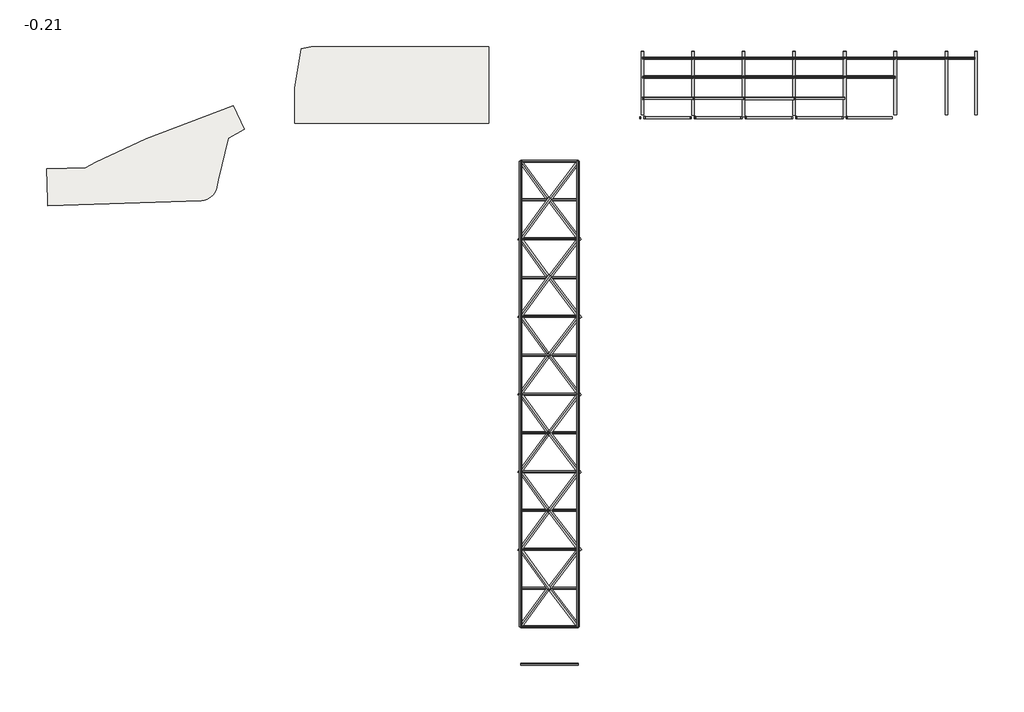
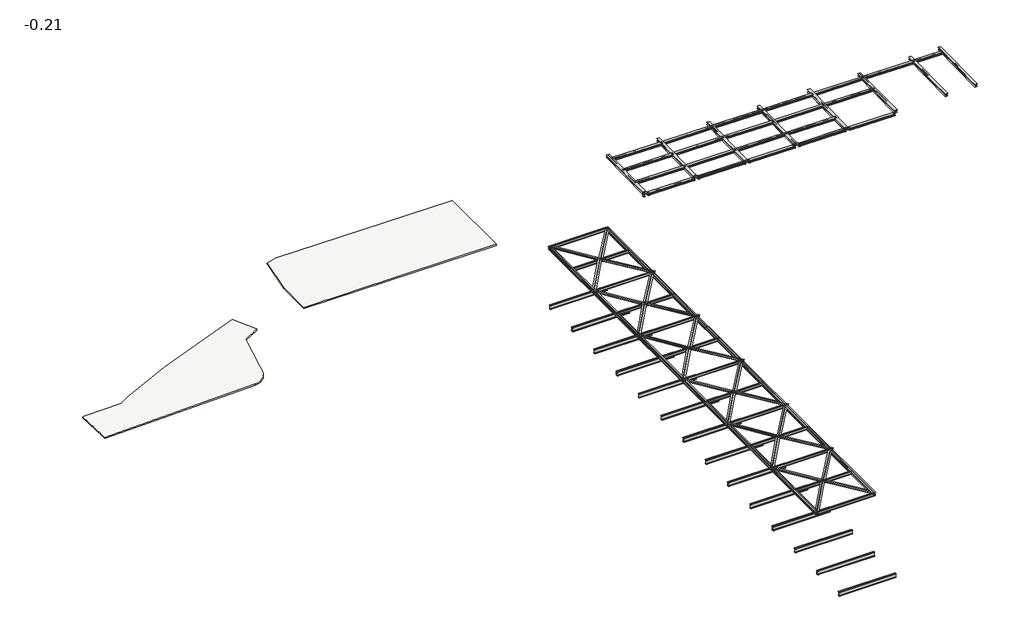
# One storey, incomplete: 96 beams, 2 slabs.
"""IFC4 building model written with IfcOpenShell, lengths in millimetres."""

from ifc_helpers import new_model, si_unit, frame, origin, place, context, project, spatial, circle_curve, faceted_brep, transform, mapped, element, save
from ifc_brep_helpers import plane_surface, cylinder_surface, advanced_brep
from components import beam_a2f6b81b, beam_abf34582, beam_97ae899e, beam_95cc8830, beam_805ead73, beam_87c8cfda, beam_ae258fda, beam_14ef86d2, beam_364cffa0, beam_a9633d2a, beam_024abb98, beam_219da6fe, beam_b7eeabf2, beam_b6fad6b5, beam_b3a487a1, beam_624bc293, beam_f6f99f5c, beam_cdd1c6c5, beam_10ac7902, beam_3a03d44c, beam_2c250x37_3421135d, beam_2c250x37_457c98ef, beam_2c250x37_d0_c14ff850, beam_2c380x74_f030002c, hea220_1345f282, hea220_c0cb1d5e, hea220_8597afc0, hea220_396262f0, hea220_834636a7, hea220_2531376c, hea220_d5b03f22, hea260_55b79d81, hea260_2124dacb, hea260_317cb1e5, hea260_97ac0598, hea260_2b03f381

model = new_model("IFC4")

# Units and contexts
model_context = context("Model", 3, world=origin())
ifc_project = project(units=[si_unit("LENGTHUNIT", "METRE", prefix="MILLI")], contexts=[model_context])

# Site, building, storey
site = spatial("IfcSite", under=ifc_project)
building = spatial("IfcBuilding", under=site)
storey = spatial("IfcBuildingStorey", under=building, Name="-0.21", Elevation=-210.0)

# Beams
placement = place(None, origin())
beam_shape = beam_a2f6b81b(model_context)
element("IfcBeam", 1, ObjectType="Profilati doppi a L : DCED150x12", at=placement, inside=storey, context=model_context, shape_type="MappedRepresentation", body=[
    mapped(beam_shape, transform((6690.4512975, 3246.2985631, 804.5), x_axis=(-0.5877852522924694, 0.8090169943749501, 0.0), y_axis=(-0.8090169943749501, -0.5877852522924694, 0.0), z_axis=(0.0, 0.0, 1.0))),
])
beam_2_shape = beam_abf34582(model_context)
element("IfcBeam", 2, ObjectType="Profilati doppi a L : DCED150x12", at=placement, inside=storey, context=model_context, shape_type="MappedRepresentation", body=[
    mapped(beam_2_shape, transform((9376.6614361, -19046.9609061, 804.5), x_axis=(0.6061344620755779, 0.7953621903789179, 0.0), y_axis=(-0.7953621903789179, 0.6061344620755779, 0.0), z_axis=(0.0, 0.0, 1.0))),
])
element("IfcBeam", 3, ObjectType="Profilati doppi a L : DCED150x12", at=placement, inside=storey, context=model_context, shape_type="MappedRepresentation", body=[
    mapped(beam_2_shape, transform((9376.6614361, 3238.7533796, 804.5), x_axis=(0.6061344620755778, 0.7953621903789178, 0.0), y_axis=(-0.7953621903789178, 0.6061344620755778, 0.0), z_axis=(0.0, 0.0, 1.0))),
])
beam_3_shape = beam_97ae899e(model_context)
element("IfcBeam", 4, ObjectType="Profilati doppi a L : DCED150x12", at=placement, inside=storey, context=model_context, shape_type="MappedRepresentation", body=[
    mapped(beam_3_shape, transform((9396.6242774, -22589.9559065, 804.5), x_axis=(0.6061344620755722, -0.7953621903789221, 0.0), y_axis=(0.7953621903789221, 0.6061344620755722, 0.0), z_axis=(0.0, 0.0, 1.0))),
])
beam_4_shape = beam_95cc8830(model_context)
element("IfcBeam", 5, ObjectType="Profilati doppi a L : DCED150x12", at=placement, inside=storey, context=model_context, shape_type="MappedRepresentation", body=[
    mapped(beam_4_shape, transform((6690.4512975, -11605.6381949, 804.5), x_axis=(-0.5877852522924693, 0.8090169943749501, 0.0), y_axis=(-0.8090169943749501, -0.5877852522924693, 0.0), z_axis=(0.0, 0.0, 1.0))),
])
beam_5_shape = beam_805ead73(model_context)
element("IfcBeam", 6, ObjectType="Profilati doppi a L : DCED150x12", at=placement, inside=storey, context=model_context, shape_type="MappedRepresentation", body=[
    mapped(beam_5_shape, transform((9376.6614361, -11613.1833784, 804.5), x_axis=(0.6061344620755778, 0.7953621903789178, 0.0), y_axis=(-0.7953621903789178, 0.6061344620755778, 0.0), z_axis=(0.0, 0.0, 1.0))),
])
beam_6_shape = beam_87c8cfda(model_context)
element("IfcBeam", 7, ObjectType="Profilati doppi a L : DCED150x12", at=placement, inside=storey, context=model_context, shape_type="MappedRepresentation", body=[
    mapped(beam_6_shape, transform((6690.4512975, -15137.5285673, 804.5), x_axis=(-0.587785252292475, -0.809016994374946, 0.0), y_axis=(0.809016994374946, -0.587785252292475, 0.0), z_axis=(0.0, 0.0, 1.0))),
])
beam_7_shape = beam_ae258fda(model_context)
element("IfcBeam", 8, ObjectType="Profilati doppi a L : DCED150x12", at=placement, inside=storey, context=model_context, shape_type="MappedRepresentation", body=[
    mapped(beam_7_shape, transform((9376.6614361, -15129.9833838, 804.5), x_axis=(0.6061344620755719, -0.7953621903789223, 0.0), y_axis=(0.7953621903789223, 0.6061344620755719, 0.0), z_axis=(0.0, 0.0, 1.0))),
])
element("IfcBeam", 9, ObjectType="Profilati doppi a L : DCED150x12", at=placement, inside=storey, context=model_context, shape_type="MappedRepresentation", body=[
    mapped(beam_7_shape, transform((9376.6614361, 7155.7309019, 804.5), x_axis=(0.6061344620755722, -0.7953621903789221, 0.0), y_axis=(0.7953621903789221, 0.6061344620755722, 0.0), z_axis=(0.0, 0.0, 1.0))),
])
beam_8_shape = beam_14ef86d2(model_context)
element("IfcBeam", 10, ObjectType="Profilati doppi a L : DCED150x12", at=placement, inside=storey, context=model_context, shape_type="MappedRepresentation", body=[
    mapped(beam_8_shape, transform((6690.4512975, -4182.2728655, 804.5), x_axis=(-0.5877852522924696, 0.80901699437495, 0.0), y_axis=(-0.80901699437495, -0.5877852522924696, 0.0), z_axis=(0.0, 0.0, 1.0))),
])
beam_9_shape = beam_364cffa0(model_context)
element("IfcBeam", 11, ObjectType="Profilati doppi a L : DCED150x12", at=placement, inside=storey, context=model_context, shape_type="MappedRepresentation", body=[
    mapped(beam_9_shape, transform((9376.6614361, -4189.8180489, 804.5), x_axis=(0.6061344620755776, 0.795362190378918, 0.0), y_axis=(-0.795362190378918, 0.6061344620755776, 0.0), z_axis=(0.0, 0.0, 1.0))),
])
element("IfcBeam", 12, ObjectType="Profilati doppi a L : DCED150x12", at=placement, inside=storey, context=model_context, shape_type="MappedRepresentation", body=[
    mapped(beam_9_shape, transform((9376.6614361, 10672.5309073, 804.5), x_axis=(0.6061344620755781, 0.7953621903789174, 0.0), y_axis=(-0.7953621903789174, 0.6061344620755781, 0.0), z_axis=(0.0, 0.0, 1.0))),
])
beam_10_shape = beam_a9633d2a(model_context)
element("IfcBeam", 13, ObjectType="Profilati doppi a L : DCED150x12", at=placement, inside=storey, context=model_context, shape_type="MappedRepresentation", body=[
    mapped(beam_10_shape, transform((6690.4512975, -7714.1632379, 804.5), x_axis=(-0.5877852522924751, -0.8090169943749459, 0.0), y_axis=(0.8090169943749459, -0.5877852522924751, 0.0), z_axis=(0.0, 0.0, 1.0))),
])
beam_11_shape = beam_024abb98(model_context)
element("IfcBeam", 14, ObjectType="Profilati doppi a L : DCED150x12", at=placement, inside=storey, context=model_context, shape_type="MappedRepresentation", body=[
    mapped(beam_11_shape, transform((9376.6614361, -7706.6180544, 804.5), x_axis=(0.6061344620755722, -0.7953621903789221, 0.0), y_axis=(0.7953621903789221, 0.6061344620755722, 0.0), z_axis=(0.0, 0.0, 1.0))),
])
beam_12_shape = beam_219da6fe(model_context)
element("IfcBeam", 15, ObjectType="Profilati doppi a L : DCED150x12", at=placement, inside=storey, context=model_context, shape_type="MappedRepresentation", body=[
    mapped(beam_12_shape, transform((6690.4512975, -285.5918093, 804.5), x_axis=(-0.587785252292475, -0.809016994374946, 0.0), y_axis=(0.809016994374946, -0.587785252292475, 0.0), z_axis=(0.0, 0.0, 1.0))),
])
beam_13_shape = beam_b7eeabf2(model_context)
element("IfcBeam", 16, ObjectType="Profilati doppi a L : DCED150x12", at=placement, inside=storey, context=model_context, shape_type="MappedRepresentation", body=[
    mapped(beam_13_shape, transform((9376.6614361, -278.0466258, 804.5), x_axis=(0.606134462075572, -0.7953621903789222, 0.0), y_axis=(0.7953621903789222, 0.606134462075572, 0.0), z_axis=(0.0, 0.0, 1.0))),
])
element("IfcBeam", 17, ObjectType="Profilati doppi a L : DCED150x12", at=placement, inside=storey, context=model_context, shape_type="MappedRepresentation", body=[
    mapped(beam_13_shape, transform((9376.6614361, 14584.3023305, 804.5), x_axis=(0.6061344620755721, -0.7953621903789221, 0.0), y_axis=(0.7953621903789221, 0.6061344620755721, 0.0), z_axis=(0.0, 0.0, 1.0))),
])
beam_14_shape = beam_b6fad6b5(model_context)
element("IfcBeam", 18, ObjectType="Profilati doppi a L : DCED150x12", at=placement, inside=storey, context=model_context, shape_type="MappedRepresentation", body=[
    mapped(beam_14_shape, transform((9376.6614361, 18101.1023359, 804.5), x_axis=(0.6061344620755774, 0.7953621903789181, 0.0), y_axis=(-0.7953621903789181, 0.6061344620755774, 0.0), z_axis=(0.0, 0.0, 1.0))),
])
beam_15_shape = beam_b3a487a1(model_context)
element("IfcBeam", 19, ObjectType="Profilati doppi a L : DCED150x12", at=placement, inside=storey, context=model_context, shape_type="MappedRepresentation", body=[
    mapped(beam_15_shape, transform((6690.4512975, 10680.0760908, 804.5), x_axis=(-0.5877852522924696, 0.8090169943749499, 0.0), y_axis=(-0.8090169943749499, -0.5877852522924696, 0.0), z_axis=(0.0, 0.0, 1.0))),
])
beam_16_shape = beam_624bc293(model_context)
element("IfcBeam", 20, ObjectType="Profilati doppi a L : DCED150x12", at=placement, inside=storey, context=model_context, shape_type="MappedRepresentation", body=[
    mapped(beam_16_shape, transform((6690.4512975, 7148.1857184, 804.5), x_axis=(-0.5877852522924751, -0.8090169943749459, 0.0), y_axis=(0.8090169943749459, -0.5877852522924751, 0.0), z_axis=(0.0, 0.0, 1.0))),
])
beam_17_shape = beam_f6f99f5c(model_context)
element("IfcBeam", 21, ObjectType="Profilati doppi a L : DCED150x12", at=placement, inside=storey, context=model_context, shape_type="MappedRepresentation", body=[
    mapped(beam_17_shape, transform((6690.4512975, 18108.6475194, 804.5), x_axis=(-0.5877852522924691, 0.8090169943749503, 0.0), y_axis=(-0.8090169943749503, -0.5877852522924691, 0.0), z_axis=(0.0, 0.0, 1.0))),
])
beam_18_shape = beam_cdd1c6c5(model_context)
element("IfcBeam", 22, ObjectType="Profilati doppi a L : DCED150x12", at=placement, inside=storey, context=model_context, shape_type="MappedRepresentation", body=[
    mapped(beam_18_shape, transform((6690.4512975, 14576.757147, 804.5), x_axis=(-0.587785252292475, -0.809016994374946, 0.0), y_axis=(0.809016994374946, -0.587785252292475, 0.0), z_axis=(0.0, 0.0, 1.0))),
])
beam_19_shape = beam_10ac7902(model_context)
element("IfcBeam", 23, ObjectType="Profilati doppi a L : DCED150x12", at=placement, inside=storey, context=model_context, shape_type="MappedRepresentation", body=[
    mapped(beam_19_shape, transform((6690.4512975, -22571.306095, 804.5), x_axis=(-0.587785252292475, -0.8090169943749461, 0.0), y_axis=(0.8090169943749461, -0.587785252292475, 0.0), z_axis=(0.0, 0.0, 1.0))),
])
beam_20_shape = beam_3a03d44c(model_context)
element("IfcBeam", 24, ObjectType="Profilati doppi a L : DCED150x12", at=placement, inside=storey, context=model_context, shape_type="MappedRepresentation", body=[
    mapped(beam_20_shape, transform((6690.4512975, -19039.4157226, 804.5), x_axis=(-0.5877852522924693, 0.8090169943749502, 0.0), y_axis=(-0.8090169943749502, -0.5877852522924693, 0.0), z_axis=(0.0, 0.0, 1.0))),
])
beam_2c250x37_shape = beam_2c250x37_3421135d(model_context)
element("IfcBeam", 25, ObjectType="Profilato a doppia C : 2C250X37", at=placement, inside=storey, context=model_context, shape_type="MappedRepresentation", body=[
    mapped(beam_2c250x37_shape, transform((5292.3573777, 8908.7187063, 726.8835145), x_axis=(0.0, -1.0, 0.0), y_axis=(1.0, 0.0, 0.0), z_axis=(0.0, 0.0, 1.0))),
])
element("IfcBeam", 26, ObjectType="Profilato a doppia C : 2C250X37", at=placement, inside=storey, context=model_context, shape_type="MappedRepresentation", body=[
    mapped(beam_2c250x37_shape, transform((10792.3573777, 8908.7187063, 726.8835145), x_axis=(0.0, -1.0, 0.0), y_axis=(1.0, 0.0, 0.0), z_axis=(0.0, 0.0, 1.0))),
])
beam_2c250x37_2_shape = beam_2c250x37_457c98ef(model_context)
element("IfcBeam", 27, ObjectType="Profilato a doppia C : 2C250X37", at=placement, inside=storey, context=model_context, shape_type="MappedRepresentation", body=[
    mapped(beam_2c250x37_2_shape, transform((5292.3573777, -13376.9955794, 726.8835145), x_axis=(0.0, -1.0, 0.0), y_axis=(1.0, 0.0, 0.0), z_axis=(0.0, 0.0, 1.0))),
])
element("IfcBeam", 28, ObjectType="Profilato a doppia C : 2C250X37", at=placement, inside=storey, context=model_context, shape_type="MappedRepresentation", body=[
    mapped(beam_2c250x37_2_shape, transform((10792.3573777, -13376.9955794, 726.8835145), x_axis=(0.0, -1.0, 0.0), y_axis=(1.0, 0.0, 0.0), z_axis=(0.0, 0.0, 1.0))),
])
beam_2c250x37_d0_shape = beam_2c250x37_d0_c14ff850(model_context)
element("IfcBeam", 29, ObjectType="Profilato a doppia C : 2C250X37 d0", at=placement, inside=storey, context=model_context, shape_type="MappedRepresentation", body=[
    mapped(beam_2c250x37_d0_shape, transform((8042.3573777, 16332.2901349, 719.0), x_axis=(1.0, 0.0, 0.0), y_axis=(0.0, 1.0, 0.0), z_axis=(0.0, 0.0, 1.0))),
])
element("IfcBeam", 30, ObjectType="Profilato a doppia C : 2C250X37 d0", at=placement, inside=storey, context=model_context, shape_type="MappedRepresentation", body=[
    mapped(beam_2c250x37_d0_shape, transform((8042.3573777, 12618.0044206, 719.0), x_axis=(1.0, 0.0, 0.0), y_axis=(0.0, 1.0, 0.0), z_axis=(0.0, 0.0, 1.0))),
])
element("IfcBeam", 31, ObjectType="Profilato a doppia C : 2C250X37 d0", at=placement, inside=storey, context=model_context, shape_type="MappedRepresentation", body=[
    mapped(beam_2c250x37_d0_shape, transform((8042.3573777, 8903.7187063, 719.0), x_axis=(1.0, 0.0, 0.0), y_axis=(0.0, 1.0, 0.0), z_axis=(0.0, 0.0, 1.0))),
])
element("IfcBeam", 32, ObjectType="Profilato a doppia C : 2C250X37 d0", at=placement, inside=storey, context=model_context, shape_type="MappedRepresentation", body=[
    mapped(beam_2c250x37_d0_shape, transform((8042.3573777, 5189.432992, 719.0), x_axis=(1.0, 0.0, 0.0), y_axis=(0.0, 1.0, 0.0), z_axis=(0.0, 0.0, 1.0))),
])
element("IfcBeam", 33, ObjectType="Profilato a doppia C : 2C250X37 d0", at=placement, inside=storey, context=model_context, shape_type="MappedRepresentation", body=[
    mapped(beam_2c250x37_d0_shape, transform((8042.3573777, 1475.1472778, 719.0), x_axis=(1.0, 0.0, 0.0), y_axis=(0.0, 1.0, 0.0), z_axis=(0.0, 0.0, 1.0))),
])
element("IfcBeam", 34, ObjectType="Profilato a doppia C : 2C250X37 d0", at=placement, inside=storey, context=model_context, shape_type="MappedRepresentation", body=[
    mapped(beam_2c250x37_d0_shape, transform((8042.3573777, -2239.1384365, 719.0), x_axis=(1.0, 0.0, 0.0), y_axis=(0.0, 1.0, 0.0), z_axis=(0.0, 0.0, 1.0))),
])
element("IfcBeam", 35, ObjectType="Profilato a doppia C : 2C250X37 d0", at=placement, inside=storey, context=model_context, shape_type="MappedRepresentation", body=[
    mapped(beam_2c250x37_d0_shape, transform((8042.3573777, -5953.4241508, 719.0), x_axis=(1.0, 0.0, 0.0), y_axis=(0.0, 1.0, 0.0), z_axis=(0.0, 0.0, 1.0))),
])
element("IfcBeam", 36, ObjectType="Profilato a doppia C : 2C250X37 d0", at=placement, inside=storey, context=model_context, shape_type="MappedRepresentation", body=[
    mapped(beam_2c250x37_d0_shape, transform((8042.3573777, -9667.7098651, 719.0), x_axis=(1.0, 0.0, 0.0), y_axis=(0.0, 1.0, 0.0), z_axis=(0.0, 0.0, 1.0))),
])
element("IfcBeam", 37, ObjectType="Profilato a doppia C : 2C250X37 d0", at=placement, inside=storey, context=model_context, shape_type="MappedRepresentation", body=[
    mapped(beam_2c250x37_d0_shape, transform((8042.3573777, -13381.9955794, 719.0), x_axis=(1.0, 0.0, 0.0), y_axis=(0.0, 1.0, 0.0), z_axis=(0.0, 0.0, 1.0))),
])
element("IfcBeam", 38, ObjectType="Profilato a doppia C : 2C250X37 d0", at=placement, inside=storey, context=model_context, shape_type="MappedRepresentation", body=[
    mapped(beam_2c250x37_d0_shape, transform((8042.3573777, -17096.2812937, 719.0), x_axis=(1.0, 0.0, 0.0), y_axis=(0.0, 1.0, 0.0), z_axis=(0.0, 0.0, 1.0))),
])
element("IfcBeam", 39, ObjectType="Profilato a doppia C : 2C250X37 d0", at=placement, inside=storey, context=model_context, shape_type="MappedRepresentation", body=[
    mapped(beam_2c250x37_d0_shape, transform((8042.3573777, -20810.567008, 719.0), x_axis=(1.0, 0.0, 0.0), y_axis=(0.0, 1.0, 0.0), z_axis=(0.0, 0.0, 1.0))),
])
element("IfcBeam", 40, ObjectType="Profilato a doppia C : 2C250X37 d0", at=placement, inside=storey, context=model_context, shape_type="MappedRepresentation", body=[
    mapped(beam_2c250x37_d0_shape, transform((8042.3573777, -24524.8527222, 719.0), x_axis=(1.0, 0.0, 0.0), y_axis=(0.0, 1.0, 0.0), z_axis=(0.0, 0.0, 1.0))),
])
element("IfcBeam", 41, ObjectType="Profilato a doppia C : 2C250X37 d0", at=placement, inside=storey, context=model_context, shape_type="MappedRepresentation", body=[
    mapped(beam_2c250x37_d0_shape, transform((8042.3573777, 20046.5758492, 719.0), x_axis=(1.0, 0.0, 0.0), y_axis=(0.0, 1.0, 0.0), z_axis=(0.0, 0.0, 1.0))),
])
beam_2c380x74_shape = beam_2c380x74_f030002c(model_context)
element("IfcBeam", 42, ObjectType="Profilato a doppia C : 2C380X74", at=placement, inside=storey, context=model_context, shape_type="MappedRepresentation", body=[
    mapped(beam_2c380x74_shape, transform((8042.3573777, 8908.9248055, -5343.6995524), x_axis=(1.0, 0.0, 0.0), y_axis=(0.0, 1.0, 0.0), z_axis=(0.0, 0.0, 1.0))),
])
element("IfcBeam", 43, ObjectType="Profilato a doppia C : 2C380X74", at=placement, inside=storey, context=model_context, shape_type="MappedRepresentation", body=[
    mapped(beam_2c380x74_shape, transform((8042.3573777, 5194.6390912, -5343.6995524), x_axis=(1.0, 0.0, 0.0), y_axis=(0.0, 1.0, 0.0), z_axis=(0.0, 0.0, 1.0))),
])
element("IfcBeam", 44, ObjectType="Profilato a doppia C : 2C380X74", at=placement, inside=storey, context=model_context, shape_type="MappedRepresentation", body=[
    mapped(beam_2c380x74_shape, transform((8042.3573777, 1480.3533769, -5343.6995524), x_axis=(1.0, 0.0, 0.0), y_axis=(0.0, 1.0, 0.0), z_axis=(0.0, 0.0, 1.0))),
])
element("IfcBeam", 45, ObjectType="Profilato a doppia C : 2C380X74", at=placement, inside=storey, context=model_context, shape_type="MappedRepresentation", body=[
    mapped(beam_2c380x74_shape, transform((8042.3573777, -2233.9323374, -5343.6995524), x_axis=(1.0, 0.0, 0.0), y_axis=(0.0, 1.0, 0.0), z_axis=(0.0, 0.0, 1.0))),
])
element("IfcBeam", 46, ObjectType="Profilato a doppia C : 2C380X74", at=placement, inside=storey, context=model_context, shape_type="MappedRepresentation", body=[
    mapped(beam_2c380x74_shape, transform((8042.3573777, -5948.2180517, -5343.6995524), x_axis=(1.0, 0.0, 0.0), y_axis=(0.0, 1.0, 0.0), z_axis=(0.0, 0.0, 1.0))),
])
element("IfcBeam", 47, ObjectType="Profilato a doppia C : 2C380X74", at=placement, inside=storey, context=model_context, shape_type="MappedRepresentation", body=[
    mapped(beam_2c380x74_shape, transform((8042.3573777, -9662.503766, -5343.6995524), x_axis=(1.0, 0.0, 0.0), y_axis=(0.0, 1.0, 0.0), z_axis=(0.0, 0.0, 1.0))),
])
element("IfcBeam", 48, ObjectType="Profilato a doppia C : 2C380X74", at=placement, inside=storey, context=model_context, shape_type="MappedRepresentation", body=[
    mapped(beam_2c380x74_shape, transform((8042.3573777, -13376.7894802, -5343.6995524), x_axis=(1.0, 0.0, 0.0), y_axis=(0.0, 1.0, 0.0), z_axis=(0.0, 0.0, 1.0))),
])
element("IfcBeam", 49, ObjectType="Profilato a doppia C : 2C380X74", at=placement, inside=storey, context=model_context, shape_type="MappedRepresentation", body=[
    mapped(beam_2c380x74_shape, transform((8042.3573777, -17091.0751945, -5343.6995524), x_axis=(1.0, 0.0, 0.0), y_axis=(0.0, 1.0, 0.0), z_axis=(0.0, 0.0, 1.0))),
])
element("IfcBeam", 50, ObjectType="Profilato a doppia C : 2C380X74", at=placement, inside=storey, context=model_context, shape_type="MappedRepresentation", body=[
    mapped(beam_2c380x74_shape, transform((8042.3573777, -20805.3609088, -5343.6995524), x_axis=(1.0, 0.0, 0.0), y_axis=(0.0, 1.0, 0.0), z_axis=(0.0, 0.0, 1.0))),
])
element("IfcBeam", 51, ObjectType="Profilato a doppia C : 2C380X74", at=placement, inside=storey, context=model_context, shape_type="MappedRepresentation", body=[
    mapped(beam_2c380x74_shape, transform((8042.3573777, -24519.6466231, -5343.6995524), x_axis=(1.0, 0.0, 0.0), y_axis=(0.0, 1.0, 0.0), z_axis=(0.0, 0.0, 1.0))),
])
element("IfcBeam", 52, ObjectType="Profilato a doppia C : 2C380X74", at=placement, inside=storey, context=model_context, shape_type="MappedRepresentation", body=[
    mapped(beam_2c380x74_shape, transform((8042.3573777, -28109.6466231, -5343.6995524), x_axis=(1.0, 0.0, 0.0), y_axis=(0.0, 1.0, 0.0), z_axis=(0.0, 0.0, 1.0))),
])
element("IfcBeam", 53, ObjectType="Profilato a doppia C : 2C380X74", at=placement, inside=storey, context=model_context, shape_type="MappedRepresentation", body=[
    mapped(beam_2c380x74_shape, transform((8042.3573777, 12623.2105198, -5343.6995524), x_axis=(1.0, 0.0, 0.0), y_axis=(0.0, 1.0, 0.0), z_axis=(0.0, 0.0, 1.0))),
])
element("IfcBeam", 54, ObjectType="Profilato a doppia C : 2C380X74", at=placement, inside=storey, context=model_context, shape_type="MappedRepresentation", body=[
    mapped(beam_2c380x74_shape, transform((8042.3573777, 16337.496234, -5343.6995524), x_axis=(1.0, 0.0, 0.0), y_axis=(0.0, 1.0, 0.0), z_axis=(0.0, 0.0, 1.0))),
])
element("IfcBeam", 55, ObjectType="Profilato a doppia C : 2C380X74", at=placement, inside=storey, context=model_context, shape_type="MappedRepresentation", body=[
    mapped(beam_2c380x74_shape, transform((8042.3573777, 20051.7819483, -5343.6995524), x_axis=(1.0, 0.0, 0.0), y_axis=(0.0, 1.0, 0.0), z_axis=(0.0, 0.0, 1.0))),
])
hea220_shape = hea220_1345f282(model_context)
element("IfcBeam", 56, ObjectType="HE-A : HEA220", at=placement, inside=storey, context=model_context, shape_type="MappedRepresentation", body=[
    mapped(hea220_shape, transform((24207.918882, 26067.3367022, -479.4530508), x_axis=(0.9999740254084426, 0.0009623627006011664, -0.007142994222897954), y_axis=(-0.0008451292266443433, 0.9998651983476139, 0.016397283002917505), z_axis=(0.007157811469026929, -0.016390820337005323, 0.9998400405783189))),
])
element("IfcBeam", 57, ObjectType="HE-A : HEA220", at=placement, inside=storey, context=model_context, shape_type="MappedRepresentation", body=[
    mapped(hea220_shape, transform((24207.9182634, 28093.9283457, -446.2368982), x_axis=(0.9999744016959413, 8.242989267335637e-05, -0.007154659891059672), y_axis=(3.398128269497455e-05, 0.9998676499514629, 0.016269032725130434), z_axis=(0.007155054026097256, -0.016268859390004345, 0.9998420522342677))),
])
element("IfcBeam", 58, ObjectType="HE-A : HEA220", at=placement, inside=storey, context=model_context, shape_type="MappedRepresentation", body=[
    mapped(hea220_shape, transform((29048.1027752, 26064.5269667, -514.2253133), x_axis=(-0.9999741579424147, -6.569127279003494e-05, 0.007188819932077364), y_axis=(-5.21498794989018e-05, -0.9998656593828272, -0.016390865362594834), z_axis=(0.007188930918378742, -0.016390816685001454, 0.9998398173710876))),
])
element("IfcBeam", 59, ObjectType="HE-A : HEA220", at=placement, inside=storey, context=model_context, shape_type="MappedRepresentation", body=[
    mapped(hea220_shape, transform((29047.9148329, 28094.2811818, -480.9459957), x_axis=(-0.999974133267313, 6.105575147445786e-05, 0.007192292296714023), y_axis=(-0.00017849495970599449, -0.9998666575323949, -0.016328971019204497), z_axis=(0.0071903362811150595, -0.01632983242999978, 0.9998408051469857))),
])
element("IfcBeam", 60, ObjectType="HE-A : HEA220", at=placement, inside=storey, context=model_context, shape_type="MappedRepresentation", body=[
    mapped(hea220_shape, transform((24207.9180601, 29902.4102875, -416.5829861), x_axis=(0.9999743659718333, -6.468283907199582e-05, -0.007159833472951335), y_axis=(0.00018202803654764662, 0.9998656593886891, 0.016389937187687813), z_axis=(0.007157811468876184, -0.01639082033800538, 0.9998400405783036))),
])
element("IfcBeam", 61, ObjectType="HE-A : HEA220", at=placement, inside=storey, context=model_context, shape_type="MappedRepresentation", body=[
    mapped(hea220_shape, transform((29047.9147841, 29902.4102863, -451.3078417), x_axis=(-0.9999741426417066, 6.46830239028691e-05, 0.007190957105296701), y_axis=(-0.00018253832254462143, -0.9998656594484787, -0.016389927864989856), z_axis=(0.007188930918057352, -0.016390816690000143, 0.9998398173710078))),
])
element("IfcBeam", 62, ObjectType="HE-A : HEA220", at=placement, inside=storey, context=model_context, shape_type="MappedRepresentation", body=[
    mapped(hea220_shape, transform((19367.8150593, 26067.3369571, -443.3888387), x_axis=(0.9999740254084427, 0.0009623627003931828, -0.007142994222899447), y_axis=(-0.0008451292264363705, 0.9998651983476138, 0.016397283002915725), z_axis=(0.007157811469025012, -0.016390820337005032, 0.9998400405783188))),
])
element("IfcBeam", 63, ObjectType="HE-A : HEA220", at=placement, inside=storey, context=model_context, shape_type="MappedRepresentation", body=[
    mapped(hea220_shape, transform((19367.8144406, 28093.9286006, -410.1726861), x_axis=(0.9999744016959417, 8.242989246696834e-05, -0.0071546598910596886), y_axis=(3.3981282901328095e-05, 0.9998676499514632, 0.01626903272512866), z_axis=(0.0071550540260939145, -0.016268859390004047, 0.9998420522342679))),
])
element("IfcBeam", 64, ObjectType="HE-A : HEA220", at=placement, inside=storey, context=model_context, shape_type="MappedRepresentation", body=[
    mapped(hea220_shape, transform((19367.8142373, 29902.4105425, -380.518774), x_axis=(0.9999743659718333, -6.46828388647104e-05, -0.007159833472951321), y_axis=(0.00018202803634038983, 0.999865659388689, 0.016389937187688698), z_axis=(0.007157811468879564, -0.016390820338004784, 0.9998400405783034))),
])
element("IfcBeam", 65, ObjectType="HE-A : HEA220", at=placement, inside=storey, context=model_context, shape_type="MappedRepresentation", body=[
    mapped(hea220_shape, transform((43568.6703544, 29902.4100312, -559.5217831), x_axis=(-0.9999741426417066, 6.468302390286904e-05, 0.007190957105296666), y_axis=(-0.0001825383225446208, -0.9998656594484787, -0.016389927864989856), z_axis=(0.007188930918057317, -0.016390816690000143, 0.9998398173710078))),
])
element("IfcBeam", 66, ObjectType="HE-A : HEA220", at=placement, inside=storey, context=model_context, shape_type="MappedRepresentation", body=[
    mapped(hea220_shape, transform((33888.161472, 29902.4102875, -488.710469), x_axis=(0.9999743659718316, -6.468283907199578e-05, -0.007159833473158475), y_axis=(0.0001820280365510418, 0.9998656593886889, 0.016389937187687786), z_axis=(0.0071578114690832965, -0.01639082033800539, 0.999840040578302))),
])
element("IfcBeam", 67, ObjectType="HE-A : HEA220", at=placement, inside=storey, context=model_context, shape_type="MappedRepresentation", body=[
    mapped(hea220_shape, transform((38728.158196, 29902.4102863, -523.4353245), x_axis=(-0.999974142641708, 6.468302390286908e-05, 0.0071909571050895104), y_axis=(-0.00018253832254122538, -0.9998656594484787, -0.01638992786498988), z_axis=(0.0071889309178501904, -0.016390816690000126, 0.9998398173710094))),
])
element("IfcBeam", 68, ObjectType="HE-A : HEA220", at=placement, inside=storey, context=model_context, shape_type="MappedRepresentation", body=[
    mapped(hea220_shape, transform((33888.162294, 26067.3367022, -551.5805336), x_axis=(0.9999740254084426, 0.0009623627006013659, -0.007142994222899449), y_axis=(-0.0008451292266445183, 0.9998651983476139, 0.016397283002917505), z_axis=(0.007157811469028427, -0.016390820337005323, 0.9998400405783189))),
])
element("IfcBeam", 69, ObjectType="HE-A : HEA220", at=placement, inside=storey, context=model_context, shape_type="MappedRepresentation", body=[
    mapped(hea220_shape, transform((33888.1616753, 28093.9283457, -518.3643811), x_axis=(0.9999744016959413, 8.242989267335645e-05, -0.007154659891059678), y_axis=(3.3981282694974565e-05, 0.9998676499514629, 0.016269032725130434), z_axis=(0.0071550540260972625, -0.016268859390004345, 0.9998420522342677))),
])
element("IfcBeam", 70, ObjectType="HE-A : HEA220", at=placement, inside=storey, context=model_context, shape_type="MappedRepresentation", body=[
    mapped(hea220_shape, transform((38728.1582448, 28094.2811818, -553.0734786), x_axis=(-0.999974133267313, 6.105575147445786e-05, 0.007192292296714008), y_axis=(-0.00017849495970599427, -0.9998666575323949, -0.016328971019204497), z_axis=(0.007190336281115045, -0.01632983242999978, 0.9998408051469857))),
])
hea220_2_shape = hea220_c0cb1d5e(model_context)
element("IfcBeam", 71, ObjectType="HE-A : HEA220", at=placement, inside=storey, context=model_context, shape_type="MappedRepresentation", body=[
    mapped(hea220_2_shape, transform((19356.3568105, 24216.7271056, -469.0688607), x_axis=(0.9999726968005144, -7.694384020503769e-05, -0.007389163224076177), y_axis=(7.694170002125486e-05, 0.9999999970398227, -5.739094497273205e-07), z_axis=(0.007389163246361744, 5.358999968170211e-09, 0.9999726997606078))),
])
element("IfcBeam", 72, ObjectType="HE-A : HEA220", at=placement, inside=storey, context=model_context, shape_type="MappedRepresentation", body=[
    mapped(hea220_2_shape, transform((24196.3861195, 24216.7268507, -505.1348179), x_axis=(0.9999726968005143, -7.694384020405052e-05, -0.007389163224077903), y_axis=(7.694170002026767e-05, 0.9999999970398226, -5.739094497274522e-07), z_axis=(0.007389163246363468, 5.358999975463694e-09, 0.9999726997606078))),
])
element("IfcBeam", 73, ObjectType="HE-A : HEA220", at=placement, inside=storey, context=model_context, shape_type="MappedRepresentation", body=[
    mapped(hea220_2_shape, transform((29036.4899421, 24216.7265957, -541.2054086), x_axis=(0.9999726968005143, -7.694384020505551e-05, -0.007389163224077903), y_axis=(7.694170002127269e-05, 0.9999999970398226, -5.739094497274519e-07), z_axis=(0.007389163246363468, 5.358999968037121e-09, 0.9999726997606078))),
])
element("IfcBeam", 74, ObjectType="HE-A : HEA220", at=placement, inside=storey, context=model_context, shape_type="MappedRepresentation", body=[
    mapped(hea220_2_shape, transform((33876.2211964, 24216.7263408, -577.2617548), x_axis=(0.9999726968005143, -7.694384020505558e-05, -0.007389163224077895), y_axis=(7.694170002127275e-05, 0.9999999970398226, -5.739094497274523e-07), z_axis=(0.00738916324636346, 5.35899996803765e-09, 0.9999726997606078))),
])
element("IfcBeam", 75, ObjectType="HE-A : HEA220", at=placement, inside=storey, context=model_context, shape_type="MappedRepresentation", body=[
    mapped(hea220_2_shape, transform((38715.95245, 24216.7260859, -613.3179519), x_axis=(0.9999726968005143, -7.694384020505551e-05, -0.007389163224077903), y_axis=(7.694170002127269e-05, 0.9999999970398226, -5.739094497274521e-07), z_axis=(0.007389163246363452, 5.358999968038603e-09, 0.9999726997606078))),
])
element("IfcBeam", 76, ObjectType="HE-A : HEA220", at=placement, inside=storey, context=model_context, shape_type="MappedRepresentation", body=[
    mapped(hea220_2_shape, transform((19356.3568105, 24216.7271056, -469.0670829), x_axis=(0.9999726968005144, -7.694383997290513e-05, -0.00738916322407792), y_axis=(7.694169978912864e-05, 0.9999999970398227, -5.739094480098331e-07), z_axis=(0.007389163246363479, 5.358999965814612e-09, 0.9999726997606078))),
])
hea220_3_shape = hea220_8597afc0(model_context)
element("IfcBeam", 77, ObjectType="HE-A : HEA220", at=placement, inside=storey, context=model_context, shape_type="MappedRepresentation", body=[
    mapped(hea220_3_shape, transform((16736.4170953, 24216.5560491, -449.2305106), x_axis=(0.9999826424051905, -7.476964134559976e-05, -0.005891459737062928), y_axis=(7.476822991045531e-05, 0.9999999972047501, -4.5982199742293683e-07), z_axis=(0.0058914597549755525, 1.931999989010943e-08, 0.999982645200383))),
])
element("IfcBeam", 78, ObjectType="HE-A : HEA220", at=placement, inside=storey, context=model_context, shape_type="MappedRepresentation", body=[
    mapped(hea220_3_shape, transform((21576.4464043, 24216.5557941, -485.2964678), x_axis=(0.9999826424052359, -7.476964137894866e-05, -0.005891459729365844), y_axis=(7.4768229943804e-05, 0.9999999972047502, -4.59821997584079e-07), z_axis=(0.005891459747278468, 1.9320000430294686e-08, 0.9999826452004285))),
])
element("IfcBeam", 79, ObjectType="HE-A : HEA220", at=placement, inside=storey, context=model_context, shape_type="MappedRepresentation", body=[
    mapped(hea220_3_shape, transform((26416.550227, 24216.5555391, -521.3688362), x_axis=(0.9999826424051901, -7.476964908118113e-05, -0.0058914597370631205), y_axis=(7.476823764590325e-05, 0.9999999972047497, -4.5982204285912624e-07), z_axis=(0.0058914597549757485, 1.9319999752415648e-08, 0.9999826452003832))),
])
element("IfcBeam", 80, ObjectType="HE-A : HEA220", at=placement, inside=storey, context=model_context, shape_type="MappedRepresentation", body=[
    mapped(hea220_3_shape, transform((31256.2814812, 24216.5552842, -557.4251824), x_axis=(0.9999826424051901, -7.47696490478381e-05, -0.0058914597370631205), y_axis=(7.476823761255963e-05, 0.9999999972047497, -4.5982204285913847e-07), z_axis=(0.0058914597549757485, 1.931999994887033e-08, 0.9999826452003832))),
])
element("IfcBeam", 81, ObjectType="HE-A : HEA220", at=placement, inside=storey, context=model_context, shape_type="MappedRepresentation", body=[
    mapped(hea220_3_shape, transform((36096.0127349, 24216.5550293, -593.4813796), x_axis=(0.9999826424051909, -7.476964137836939e-05, -0.005891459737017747), y_axis=(7.476822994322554e-05, 0.9999999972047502, -4.5982199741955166e-07), z_axis=(0.005891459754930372, 1.931999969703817e-08, 0.9999826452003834))),
])
hea220_4_shape = hea220_396262f0(model_context)
element("IfcBeam", 82, ObjectType="HE-A : HEA220", at=placement, inside=storey, context=model_context, shape_type="MappedRepresentation", body=[
    mapped(hea220_4_shape, transform((21991.3821815, 24216.9057604, -488.8251261), x_axis=(0.9999815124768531, -7.694383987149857e-05, -0.006080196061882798), y_axis=(7.694238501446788e-05, 0.9999999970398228, -4.7319253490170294e-07), z_axis=(0.006080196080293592, 5.359000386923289e-09, 0.9999815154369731))),
])
element("IfcBeam", 83, ObjectType="HE-A : HEA220", at=placement, inside=storey, context=model_context, shape_type="MappedRepresentation", body=[
    mapped(hea220_4_shape, transform((26831.4860041, 24216.9055054, -524.8974945), x_axis=(0.9999815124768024, -7.69438398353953e-05, -0.006080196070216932), y_axis=(7.694238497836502e-05, 0.999999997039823, -4.731925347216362e-07), z_axis=(0.006080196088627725, 5.358999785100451e-09, 0.9999815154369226))),
])
element("IfcBeam", 84, ObjectType="HE-A : HEA220", at=placement, inside=storey, context=model_context, shape_type="MappedRepresentation", body=[
    mapped(hea220_4_shape, transform((31671.2172583, 24216.9052505, -560.9538407), x_axis=(0.9999815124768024, -7.694383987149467e-05, -0.006080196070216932), y_axis=(7.694238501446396e-05, 0.999999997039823, -4.731925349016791e-07), z_axis=(0.006080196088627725, 5.3589997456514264e-09, 0.9999815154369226))),
])
element("IfcBeam", 85, ObjectType="HE-A : HEA220", at=placement, inside=storey, context=model_context, shape_type="MappedRepresentation", body=[
    mapped(hea220_4_shape, transform((36510.948512, 24216.9049957, -597.0100379), x_axis=(0.9999815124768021, -7.694383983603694e-05, -0.006080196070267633), y_axis=(7.694238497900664e-05, 0.999999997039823, -4.731925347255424e-07), z_axis=(0.006080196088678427, 5.358999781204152e-09, 0.9999815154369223))),
])
hea220_5_shape = hea220_834636a7(model_context)
element("IfcBeam", 86, ObjectType="HE-A : HEA220", at=placement, inside=storey, context=model_context, shape_type="MappedRepresentation", body=[
    mapped(hea220_5_shape, transform((47402.4693417, 29902.035387, -588.3729094), x_axis=(-0.9999741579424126, -6.569127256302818e-05, 0.007188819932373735), y_axis=(-5.214987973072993e-05, -0.9998656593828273, -0.01639086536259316), z_axis=(0.007188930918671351, -0.01639081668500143, 0.9998398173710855))),
])
hea220_6_shape = hea220_2531376c(model_context)
element("IfcBeam", 87, ObjectType="HE-A : HEA220", at=placement, inside=storey, context=model_context, shape_type="MappedRepresentation", body=[
    mapped(hea220_6_shape, transform((47402.2246654, 29902.0353709, -588.3711504), x_axis=(-0.9999741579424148, -6.569127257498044e-05, 0.00718881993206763), y_axis=(-5.2149879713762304e-05, -0.9998656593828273, -0.016390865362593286), z_axis=(0.007188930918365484, -0.016390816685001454, 0.9998398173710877))),
])
hea220_7_shape = hea220_d5b03f22(model_context)
element("IfcBeam", 88, ObjectType="HE-A : HEA220", at=placement, inside=storey, context=model_context, shape_type="MappedRepresentation", body=[
    mapped(hea220_7_shape, transform((17151.4528706, 24216.9060077, -452.7597769), x_axis=(0.9999815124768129, -7.694384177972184e-05, -0.006080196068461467), y_axis=(7.694238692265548e-05, 0.9999999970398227, -4.731925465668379e-07), z_axis=(0.0060801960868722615, 5.358999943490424e-09, 0.9999815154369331))),
])
hea260_shape = hea260_55b79d81(model_context)
element("IfcBeam", 89, ObjectType="HE-A : HEA260", at=placement, inside=storey, context=model_context, shape_type="MappedRepresentation", body=[
    mapped(hea260_shape, transform((26622.1139681, 27444.3804374, -494.0797109), x_axis=(0.0, -0.9998660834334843, -0.016365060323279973), y_axis=(1.0, 0.0, 0.0), z_axis=(0.0, -0.016365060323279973, 0.9998660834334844))),
])
hea260_2_shape = hea260_2124dacb(model_context)
element("IfcBeam", 90, ObjectType="HE-A : HEA260", at=placement, inside=storey, context=model_context, shape_type="MappedRepresentation", body=[
    mapped(hea260_2_shape, transform((21782.1130153, 27514.0359511, -458.3704343), x_axis=(0.0, -0.9998665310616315, -0.016337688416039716), y_axis=(1.0, 0.0, 0.0), z_axis=(0.0, -0.016337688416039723, 0.9998665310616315))),
])
hea260_3_shape = hea260_317cb1e5(model_context)
element("IfcBeam", 91, ObjectType="HE-A : HEA260", at=placement, inside=storey, context=model_context, shape_type="MappedRepresentation", body=[
    mapped(hea260_3_shape, transform((16942.0101453, 27524.0439, -422.1421618), x_axis=(0.0, -0.9998656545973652, -0.016391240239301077), y_axis=(1.0, 0.0, 0.0), z_axis=(0.0, -0.01639124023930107, 0.9998656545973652))),
])
element("IfcBeam", 92, ObjectType="HE-A : HEA260", at=placement, inside=storey, context=model_context, shape_type="MappedRepresentation", body=[
    mapped(hea260_3_shape, transform((46042.2730772, 27524.0433869, -636.2936629), x_axis=(0.0, -0.9998656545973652, -0.01639124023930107), y_axis=(1.0, 0.0, 0.0), z_axis=(0.0, -0.01639124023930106, 0.9998656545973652))),
])
element("IfcBeam", 93, ObjectType="HE-A : HEA260", at=placement, inside=storey, context=model_context, shape_type="MappedRepresentation", body=[
    mapped(hea260_3_shape, transform((48882.2644108, 27524.0432373, -657.4563867), x_axis=(0.0, -0.9998656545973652, -0.01639124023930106), y_axis=(1.0, 0.0, 0.0), z_axis=(0.0, -0.01639124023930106, 0.9998656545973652))),
])
element("IfcBeam", 94, ObjectType="HE-A : HEA260", at=placement, inside=storey, context=model_context, shape_type="MappedRepresentation", body=[
    mapped(hea260_3_shape, transform((41142.35738, 27524.043645, -599.7832068), x_axis=(0.0, -0.9998656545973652, -0.016391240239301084), y_axis=(1.0, 0.0, 0.0), z_axis=(0.0, -0.01639124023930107, 0.9998656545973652))),
])
hea260_4_shape = hea260_97ac0598(model_context)
element("IfcBeam", 95, ObjectType="HE-A : HEA260", at=placement, inside=storey, context=model_context, shape_type="MappedRepresentation", body=[
    mapped(hea260_4_shape, transform((36302.35738, 27449.3837098, -566.2071402), x_axis=(0.0, -0.9998656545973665, -0.016391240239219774), y_axis=(1.0, 0.0, 0.0), z_axis=(0.0, -0.016391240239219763, 0.9998656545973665))),
])
hea260_5_shape = hea260_2b03f381(model_context)
element("IfcBeam", 96, ObjectType="HE-A : HEA260", at=placement, inside=storey, context=model_context, shape_type="MappedRepresentation", body=[
    mapped(hea260_5_shape, transform((31462.35738, 27519.0402926, -530.3339117), x_axis=(0.0, -0.9998660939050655, -0.01636442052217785), y_axis=(1.0, 0.0, 0.0), z_axis=(0.0, -0.01636442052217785, 0.9998660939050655))),
])

# Slabs
element("IfcSlab", 97, ObjectType="Concrete Slab - 12cm", at=placement, inside=storey, context=model_context, shape_type="Brep", body=[
    faceted_brep([(2248.7276126, 23663.3893107, -180.0007184), (-16304.9559475, 23663.3893107, -115.8011213), (-16304.9559475, 27022.6690154, -115.8011213), (-15705.5197605, 30807.3601492, -117.8752949), (-14731.5249806, 31021.9947423, -121.2455191), (2248.7276126, 31021.9947423, -180.0007184), (2248.7276126, 23663.3893107, -60.0), (2248.7276126, 31021.9947423, -60.0), (-14731.5249806, 31021.9947423, -1.2448007), (-15705.5197605, 30807.3601492, 2.1254234), (-16304.9559475, 27022.6690154, 4.1995971), (-16304.9559475, 23663.3893107, 4.1995971)], [[[0, 1, 2, 3, 4, 5]], [[6, 7, 8, 9, 10, 11]], [[3, 2, 10, 9]], [[4, 3, 9, 8]], [[0, 5, 7, 6]], [[1, 0, 6, 11]], [[2, 1, 11, 10]], [[5, 4, 8, 7]]]),
])
element("IfcSlab", 98, ObjectType="Concrete Slab - 12cm", at=placement, inside=storey, context=model_context, shape_type="AdvancedBrep", body=[
    advanced_brep(
    [(-39974.3074783, 15805.7872777, -290.0), (-39989.8963337, 16305.4638714, -290.0), (-40083.444489, 19304.0049737, -290.0), (-39887.2838684, 19310.1247712, -290.0), (-36338.0381577, 19420.8537483, -290.0), (-35417.4027365, 19928.8189923, -290.0), (-35355.9771356, 19962.7108779, -290.0), (-35220.2991071, 20024.7766947, -290.0), (-34853.6119962, 20192.5174507, -290.0), (-34501.5357736, 20353.5744664, -290.0), (-30535.7992042, 22167.697817, -290.0), (-30523.2718094, 22173.4284648, -290.0), (-30509.0871967, 22178.8734274, -290.0), (-26113.9072975, 23866.0249182, -290.0), (-25916.1779472, 23941.9261045, -290.0), (-24644.0824984, 24430.2377964, -290.0), (-24246.9133429, 24582.696751, -290.0), (-22998.7515102, 25061.8211885, -290.0), (-22801.0221598, 25137.7223748, -290.0), (-22229.9706609, 25356.9285074, -290.0), (-21894.1292349, 24661.1010834, -290.0), (-21822.7709321, 24513.2543315, -290.0), (-21141.5940472, 23101.9288653, -290.0), (-22682.0743313, 22266.5845219, -290.0), (-23639.2847971, 18255.6084779, -290.0), (-23697.3170715, 18012.4372314, -290.0), (-23860.0954996, 17330.3506903, -290.0), (-25300.1337856, 16263.5905336, -290.0), (-39974.3074783, 15805.7872777, -170.0), (-25300.1337856, 16263.5905336, -170.0), (-23860.0954996, 17330.3506903, -170.0), (-23697.3170715, 18012.4372314, -170.0), (-23639.2847971, 18255.6084779, -170.0), (-22682.0743313, 22266.5845219, -170.0), (-21141.5940472, 23101.9288653, -170.0), (-22229.9706609, 25356.9285074, -170.0), (-30523.2718094, 22173.4284648, -170.0), (-35355.9771356, 19962.7108779, -170.0), (-36338.0381577, 19420.8537483, -170.0), (-39887.2838684, 19310.1247712, -170.0), (-40083.444489, 19304.0049737, -170.0), (-39989.8963337, 16305.4638714, -170.0), (-35355.9771356, 19962.7108779, -200.0), (-30523.2718094, 22173.4284648, -200.0)],
    [
        (0, 1),
        (1, 2),
        (2, 3),
        (3, 4),
        (4, 5),
        (5, 6),
        (6, 7),
        (7, 8),
        (8, 9),
        (9, 10),
        (10, 11),
        (11, 12),
        (12, 13),
        (13, 14),
        (14, 15),
        (15, 16),
        (16, 17),
        (17, 18),
        (18, 19),
        (19, 20),
        (20, 21),
        (21, 22),
        (22, 23),
        (23, 24),
        (24, 25),
        (25, 26),
        (26, 27, circle_curve(frame((-25404.8280257, 17910.2657037, -290.0), z_axis=(0.0, 0.0, -1.0), x_axis=(1.0, 0.0, 0.0)), 1650.0)),
        (27, 0),
        (28, 29),
        (29, 30, circle_curve(frame((-25404.8280257, 17910.2657037, -170.0), z_axis=(0.0, 0.0, 1.0), x_axis=(1.0, 0.0, 0.0)), 1650.0)),
        (30, 31),
        (31, 32),
        (32, 33),
        (33, 34),
        (34, 35),
        (35, 36),
        (36, 37),
        (37, 38),
        (38, 39),
        (39, 40),
        (40, 41),
        (41, 28),
        (0, 28),
        (40, 2),
        (38, 4),
        (37, 42),
        (42, 6),
        (36, 43),
        (43, 11),
        (35, 19),
        (34, 22),
        (33, 23),
        (30, 26),
        (29, 27),
    ],
    [
        plane_surface(frame((-40083.444489, 19304.0049737, -290.0), z_axis=(0.0, 0.0, -1.0), x_axis=(-0.031182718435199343, 0.9995137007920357, 0.0))),
        plane_surface(frame((-40083.444489, 19304.0049737, -170.0), z_axis=(0.0, 0.0, 1.0), x_axis=(0.031182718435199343, -0.9995137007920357, 0.0))),
        plane_surface(frame((-39974.3074783, 15805.7872777, -290.0), z_axis=(-0.9995137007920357, -0.031182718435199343, 0.0), x_axis=(0.0, 0.0, 1.0))),
        plane_surface(frame((-40083.444489, 19304.0049737, -290.0), z_axis=(-0.031182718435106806, 0.9995137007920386, 0.0), x_axis=(0.0, 0.0, 1.0))),
        plane_surface(frame((-36338.0381577, 19420.8537483, -290.0), z_axis=(-0.4830980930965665, 0.8755662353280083, 0.0), x_axis=(0.0, 0.0, 1.0))),
        plane_surface(frame((-35355.9771356, 19962.7108779, -290.0), z_axis=(-0.4159902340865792, 0.9093690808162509, 0.0), x_axis=(0.0, 0.0, 1.0))),
        plane_surface(frame((-30523.2718094, 22173.4284648, -290.0), z_axis=(-0.3583679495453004, 0.9335804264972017, 0.0), x_axis=(0.0, 0.0, 1.0))),
        plane_surface(frame((-22229.9706609, 25356.9285074, -290.0), z_axis=(0.9005897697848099, 0.43467006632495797, 0.0), x_axis=(0.0, 0.0, 1.0))),
        plane_surface(frame((-21141.5940472, 23101.9288653, -290.0), z_axis=(0.476687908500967, -0.879072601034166, 0.0), x_axis=(0.0, 0.0, 1.0))),
        plane_surface(frame((-22682.0743313, 22266.5845219, -290.0), z_axis=(0.9726849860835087, -0.23212909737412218, 0.0), x_axis=(0.0, 0.0, 1.0))),
        cylinder_surface(frame((-25404.8280257, 17910.2657037, -170.0), z_axis=(0.0, 0.0, -1.0), x_axis=(1.0, 0.0, 0.0)), 1650.0),
        plane_surface(frame((-25300.1337856, 16263.5905336, -290.0), z_axis=(0.0311827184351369, -0.9995137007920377, 0.0), x_axis=(0.0, 0.0, 1.0))),
    ],
    [
        (0, [[1, 2, 3, 4, 5, 6, 7, 8, 9, 10, 11, 12, 13, 14, 15, 16, 17, 18, 19, 20, 21, 22, 23, 24, 25, 26, 27, 28]]),
        (1, [[29, 30, 31, 32, 33, 34, 35, 36, 37, 38, 39, 40, 41, 42]]),
        (2, [[-2, -1, 43, -42, -41, 44]]),
        (3, [[-4, -3, -44, -40, -39, 45]]),
        (4, [[-6, -5, -45, -38, 46, 47]]),
        (5, [[-11, -10, -9, -8, -7, -47, -46, -37, 48, 49]]),
        (6, [[-19, -18, -17, -16, -15, -14, -13, -12, -49, -48, -36, 50]]),
        (7, [[-22, -21, -20, -50, -35, 51]]),
        (8, [[-23, -51, -34, 52]]),
        (9, [[-26, -25, -24, -52, -33, -32, -31, 53]]),
        (10, [[-27, -53, -30, 54]]),
        (11, [[-28, -54, -29, -43]]),
    ],
),
])

save(model, "model.ifc")
